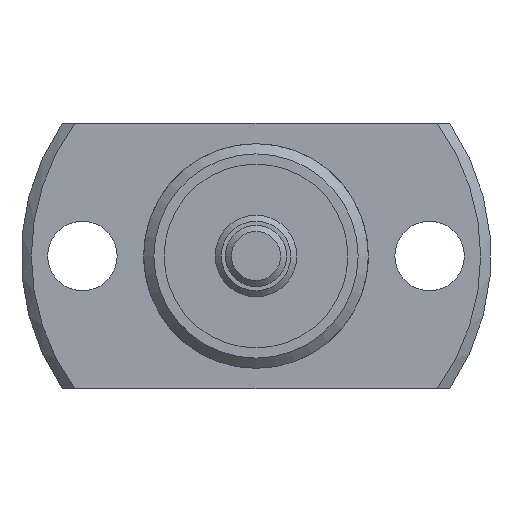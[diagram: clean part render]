
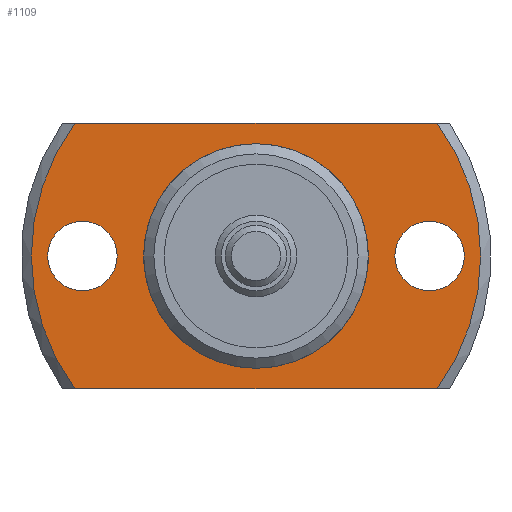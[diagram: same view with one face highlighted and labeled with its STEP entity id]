
A CAD part, left-side view. The second image highlights one B-rep face of the part: STEP entity #1109.
In plain terms, the highlighted planar face has unit normal (-1, 0, 0).
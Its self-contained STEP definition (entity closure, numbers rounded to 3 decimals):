
#109=LINE('',#1857,#167);
#110=LINE('',#1861,#168);
#167=VECTOR('',#1490,1000.);
#168=VECTOR('',#1493,1000.);
#299=ORIENTED_EDGE('',*,*,#559,.T.);
#300=ORIENTED_EDGE('',*,*,#560,.T.);
#301=ORIENTED_EDGE('',*,*,#548,.F.);
#302=ORIENTED_EDGE('',*,*,#561,.T.);
#303=ORIENTED_EDGE('',*,*,#562,.F.);
#304=ORIENTED_EDGE('',*,*,#563,.T.);
#305=ORIENTED_EDGE('',*,*,#542,.T.);
#542=EDGE_CURVE('',#683,#683,#776,.T.);
#548=EDGE_CURVE('',#688,#689,#779,.T.);
#559=EDGE_CURVE('',#698,#698,#785,.T.);
#560=EDGE_CURVE('',#699,#699,#786,.T.);
#561=EDGE_CURVE('',#688,#700,#109,.T.);
#562=EDGE_CURVE('',#701,#700,#787,.T.);
#563=EDGE_CURVE('',#701,#689,#110,.T.);
#683=VERTEX_POINT('',#1804);
#688=VERTEX_POINT('',#1818);
#689=VERTEX_POINT('',#1820);
#698=VERTEX_POINT('',#1854);
#699=VERTEX_POINT('',#1856);
#700=VERTEX_POINT('',#1858);
#701=VERTEX_POINT('',#1860);
#776=CIRCLE('',#1232,5.3);
#779=CIRCLE('',#1236,11.);
#785=CIRCLE('',#1247,1.7);
#786=CIRCLE('',#1248,1.7);
#787=CIRCLE('',#1249,11.);
#869=EDGE_LOOP('',(#299));
#870=EDGE_LOOP('',(#300));
#871=EDGE_LOOP('',(#301,#302,#303,#304));
#872=EDGE_LOOP('',(#305));
#981=FACE_BOUND('',#869,.T.);
#982=FACE_BOUND('',#870,.T.);
#983=FACE_BOUND('',#871,.T.);
#984=FACE_BOUND('',#872,.T.);
#1055=PLANE('',#1246);
#1109=ADVANCED_FACE('',(#981,#982,#983,#984),#1055,.F.);
#1232=AXIS2_PLACEMENT_3D('',#1803,#1452,#1453);
#1236=AXIS2_PLACEMENT_3D('',#1819,#1462,#1463);
#1246=AXIS2_PLACEMENT_3D('',#1852,#1484,#1485);
#1247=AXIS2_PLACEMENT_3D('',#1853,#1486,#1487);
#1248=AXIS2_PLACEMENT_3D('',#1855,#1488,#1489);
#1249=AXIS2_PLACEMENT_3D('',#1859,#1491,#1492);
#1452=DIRECTION('',(1.,0.,0.));
#1453=DIRECTION('',(0.,0.,-1.));
#1462=DIRECTION('',(1.,0.,0.));
#1463=DIRECTION('',(0.,0.,-1.));
#1484=DIRECTION('',(1.,0.,0.));
#1485=DIRECTION('',(0.,0.,-1.));
#1486=DIRECTION('',(1.,0.,0.));
#1487=DIRECTION('',(0.,0.,-1.));
#1488=DIRECTION('',(1.,0.,0.));
#1489=DIRECTION('',(0.,0.,-1.));
#1490=DIRECTION('',(0.,-1.,0.));
#1491=DIRECTION('',(1.,0.,0.));
#1492=DIRECTION('',(0.,0.,-1.));
#1493=DIRECTION('',(0.,1.,0.));
#1803=CARTESIAN_POINT('',(13.,0.,0.));
#1804=CARTESIAN_POINT('',(13.,0.,-5.3));
#1818=CARTESIAN_POINT('',(13.,8.874,-6.5));
#1819=CARTESIAN_POINT('',(13.,0.,0.));
#1820=CARTESIAN_POINT('',(13.,8.874,6.5));
#1852=CARTESIAN_POINT('',(13.,5.3,0.));
#1853=CARTESIAN_POINT('',(13.,-8.5,0.));
#1854=CARTESIAN_POINT('',(13.,-8.5,-1.7));
#1855=CARTESIAN_POINT('',(13.,8.5,0.));
#1856=CARTESIAN_POINT('',(13.,8.5,-1.7));
#1857=CARTESIAN_POINT('',(13.,5.3,-6.5));
#1858=CARTESIAN_POINT('',(13.,-8.874,-6.5));
#1859=CARTESIAN_POINT('',(13.,0.,0.));
#1860=CARTESIAN_POINT('',(13.,-8.874,6.5));
#1861=CARTESIAN_POINT('',(13.,5.3,6.5));
